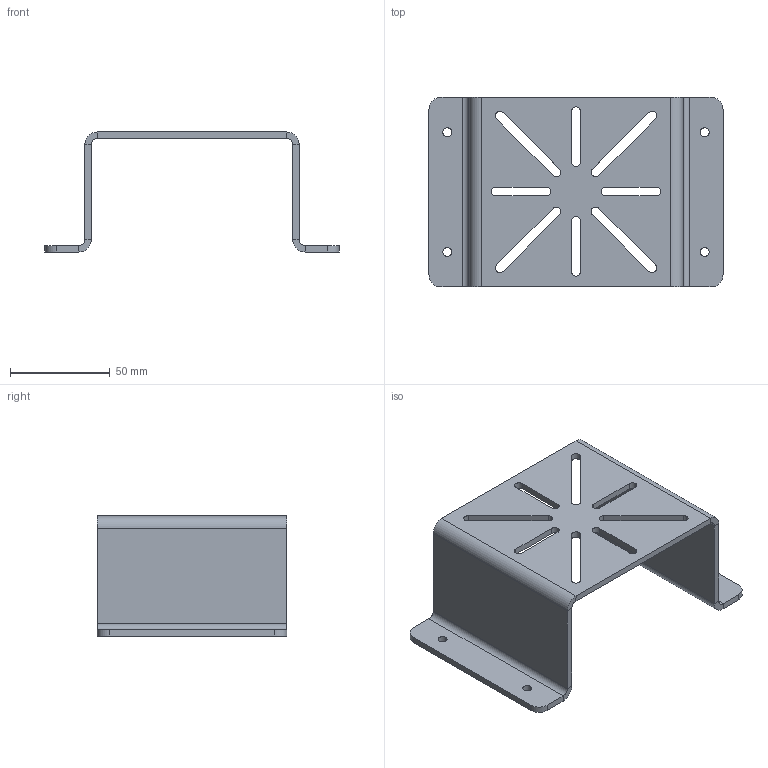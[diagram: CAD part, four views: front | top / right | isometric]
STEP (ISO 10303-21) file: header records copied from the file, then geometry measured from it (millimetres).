
FILE_DESCRIPTION (( 'STEP AP214' ), '1' );
FILE_NAME ('RTF _ U BRACKET.STEP', '2022-05-19T18:04:47', ( '' ), ( '' ), 'SwSTEP 2.0', 'SolidWorks 2022', '' );
FILE_SCHEMA (( 'AUTOMOTIVE_DESIGN' ));
Length unit declared in the file: millimetre
Products named in the file (1): RTF _ U BRACKET
Bounding box: 147.36 x 95 x 60.16 mm (x, y, z)
Volume: 72115.5 mm3; surface area: 49742.2 mm2
Topology: 1 solids, 1 shells, 88 faces, 226 edges, 140 vertices
Faces by surface type: plane 46, cylinder 42
Entity records: 2740 total; most frequent: DIRECTION 488, CARTESIAN_POINT 455, ORIENTED_EDGE 452, EDGE_CURVE 226, AXIS2_PLACEMENT_3D 173, VECTOR 142, LINE 142, VERTEX_POINT 140
